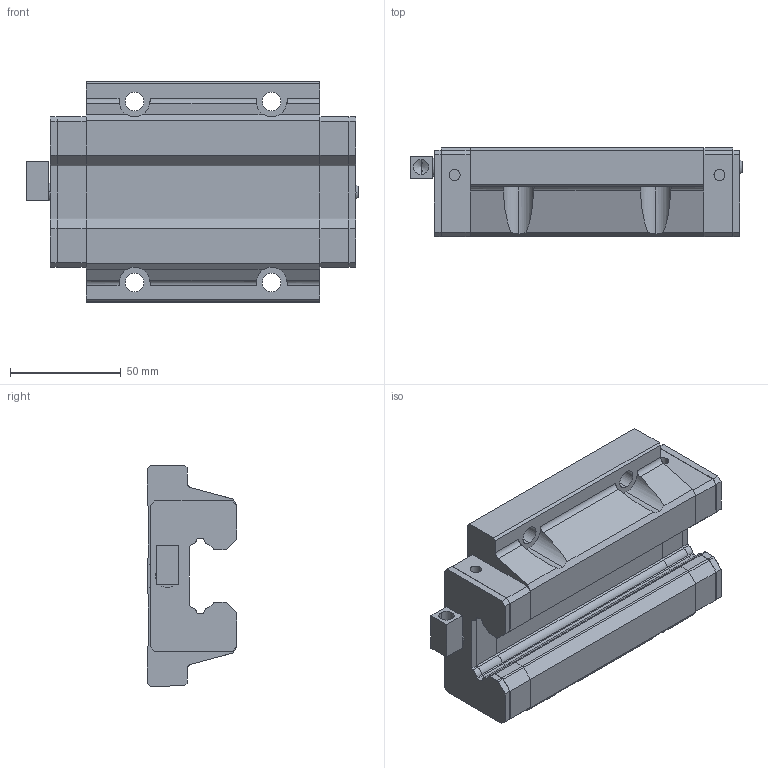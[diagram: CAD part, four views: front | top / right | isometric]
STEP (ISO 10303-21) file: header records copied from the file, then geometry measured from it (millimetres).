
FILE_DESCRIPTION (( 'STEP AP203' ), '1' );
FILE_NAME ('SGW35HA.STEP', '2025-06-27T06:20:44', ( 'Owner' ), ( 'Organization' ), 'SwSTEP 2.0', 'SolidWorks 2020', '' );
FILE_SCHEMA (( 'CONFIG_CONTROL_DESIGN' ));
Length unit declared in the file: millimetre
Products named in the file (1): SGW35HA
Bounding box: 150.2 x 40.5 x 100 mm (x, y, z)
Volume: 361302.3 mm3; surface area: 68037.7 mm2
Topology: 7 solids, 7 shells, 403 faces, 1072 edges, 694 vertices
Faces by surface type: plane 279, cylinder 96, cone 26, torus 2
Entity records: 12530 total; most frequent: CARTESIAN_POINT 2348, ORIENTED_EDGE 2140, DIRECTION 2047, EDGE_CURVE 1070, LINE 809, VECTOR 809, VERTEX_POINT 694, AXIS2_PLACEMENT_3D 619
